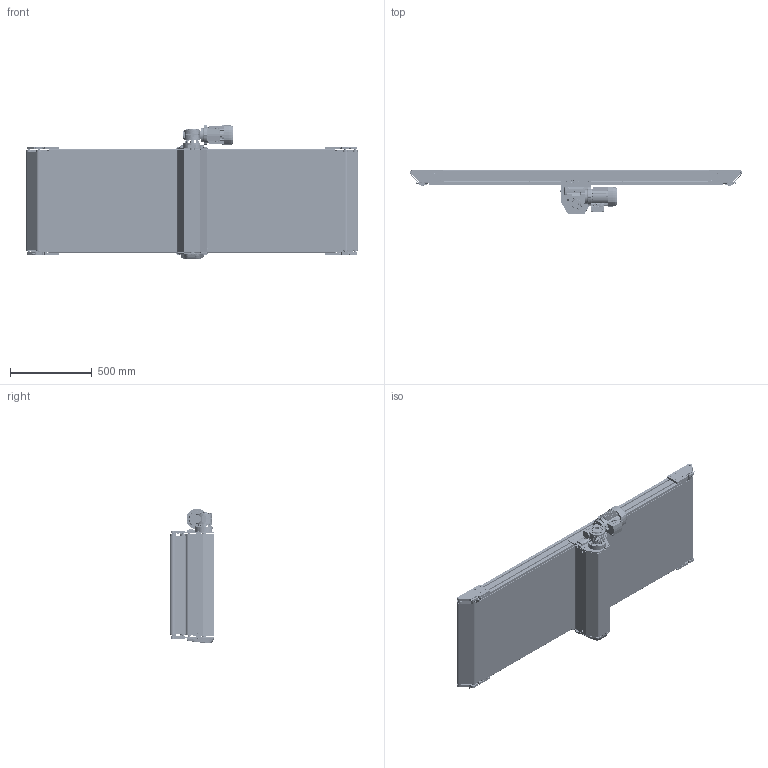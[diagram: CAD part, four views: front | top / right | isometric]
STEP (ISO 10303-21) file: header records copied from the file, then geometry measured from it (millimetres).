
FILE_DESCRIPTION (( 'STEP AP203' ), '1' );
FILE_NAME ('NASTRO_RETTILINEO_TAPPETO.step', '2026-04-22T13:10:27', ( 'Utente Windows' ), ( '' ), 'SwSTEP 2.0', 'SolidWorks 2024', '' );
FILE_SCHEMA (( 'CONFIG_CONTROL_DESIGN' ));
Length unit declared in the file: millimetre
Products named in the file (60): 084.802.064; BLOCCO_RINVIO_95_PENNA_SX; 12UNI7435; RULLO_95_Default<A macchina>; VITI TSEI UNI 5933_M6x12 UNI 5933; CARTER_50-95_CENTRALE; PERNO_SUP_95_PENNA; VITI TE UNI 5739_M8x12 UNI 5739; BLOCCO_RINVIO_95_PENNA_DX; DADI ESAGONALI NORMALI UNI 5588_M6 UNI 5588; RONDELLE FASCIA LARGA UNI 6593_6.4x24 UNI 6593; CHIAVETTE_A 8x7x20 UNI 6604-69; LAMIERA_2_PENNE; 084.301.000 VITI ALUSIC_084.301.003; VITI TSEI UNI 5933_M8x16 UNI 5933; VITE_RONDELLA_M8X20; BLOCCO_TRAINO_50-95_CENTRALE; PERNO_INF_95_PENNA; 084.802.010; 084.302.017; VITI TE UNI 5739_M6x70 UNI 5739; NASTRO_RETTILINEO_TAPPETO; 084.303.001; 084.802.036; RONDELLE UNI 6592_6.4x12.5 UNI 6592; VITI TSEI UNI 5933_M5x12 UNI 5933; VITI TSEI UNI 5933_M8x30 UNI 5933; TRAVERSA_50-95_CENTRALE_Default<A macchina>; 30UNI7435; CH04F_DX; 084.302.016; VITI TE UNI 5739_M6x50 UNI 5739; VITE_DADO_M6X12; CHIAVETTE_A 6x6x60 UNI 6604-69; TELAIO_95_STANDARD_Default<A macchina>; VITE_DADO_M5X12; VITI TE UNI 5739_M6x16 UNI 5739; RULLO_95_PENNA; 084.802.021; 084.802.003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
Assembly tree (154 placements, depth 3):
  NASTRO_RETTILINEO_TAPPETO
    TAPPETO_CENTRALE_2PENNE
    TELAIO_95_STANDARD_Default<A macchina>
    LAMIERA_2_PENNE
    RULLO_95_PENNA  x4
    BLOCCO_RINVIO_95_PENNA_DX  x2
      456.015.101_456.015.101 DX
      084.802.036
      084.301.000 VITI ALUSIC_084.301.003
      VITI TE UNI 5739_M6x70 UNI 5739
      VITI TSEI UNI 5933_M8x30 UNI 5933
      084.302.016
      12UNI7435
    PERNO_SUP_95_PENNA  x2
    BLOCCO_RINVIO_95_PENNA_SX  x2
      456.015.101_456.015.101 SX
      084.802.036
      084.301.000 VITI ALUSIC_084.301.003
      VITI TE UNI 5739_M6x70 UNI 5739
      VITI TSEI UNI 5933_M8x30 UNI 5933
      084.302.016
      12UNI7435
    PERNO_INF_95_PENNA  x2
    RULLO_95_Default<A macchina>
    BLOCCO_TRAINO_50-95_CENTRALE_44
      084.802.010
      084.802.021
      084.802.004-1  x2
      084.802.003
      VITI TSEI UNI 5933_M8x20 UNI 5933  x4
      084.302.017
      VITI TE UNI 5739_M6x50 UNI 5739  x2
      DADI ESAGONALI NORMALI UNI 5588_M6 UNI 5588  x2
      VITI TE UNI 5739_M6x16 UNI 5739  x2
      RONDELLE UNI 6592_6.4x12.5 UNI 6592  x2
      VITI TSEI UNI 5933_M6x12 UNI 5933  x4
      VITI TSEI UNI 5933_M8x16 UNI 5933  x3
      VITI TE UNI 5739_M8x20 UNI 5739  x4
      084.802.070
    BLOCCO_TRAINO_50-95_CENTRALE
      084.802.004-1  x2
      084.802.020
      084.802.003
      VITI TSEI UNI 5933_M8x20 UNI 5933  x4
      VITI TSEI UNI 5933_M6x12 UNI 5933  x6
      RONDELLE UNI 6592_8.4x17 UNI 6592  x2
      VITI TE UNI 5739_M8x12 UNI 5739  x2
      VITI TE UNI 5739_M6x16 UNI 5739  x2
      084.302.017
      RONDELLE UNI 6592_6.4x12.5 UNI 6592  x2
      VITI TE UNI 5739_M6x50 UNI 5739  x2
      DADI ESAGONALI NORMALI UNI 5588_M6 UNI 5588  x2
      084.802.064
    BLOCCO_PERNO_50_CENTRALE_44
      084.814.002-1
      084.810.003
      RONDELLE FASCIA LARGA UNI 6593_6.4x24 UNI 6593
      VITI TE UNI 5739_M6x12 UNI 5739
      CHIAVETTE_A 6x6x60 UNI 6604-69
      CHIAVETTE_A 8x7x20 UNI 6604-69
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Bounding box: 2035.95 x 272.5 x 820.4 mm (x, y, z)
Volume: 22313992.8 mm3; surface area: 16448101.7 mm2
Topology: 217 solids, 232 shells, 7322 faces, 18382 edges, 11696 vertices
Faces by surface type: plane 3272, cylinder 2338, cone 789, bspline 620, torus 288, sphere 15
Entity records: 170479 total; most frequent: CARTESIAN_POINT 57380, ORIENTED_EDGE 22874, DIRECTION 20383, EDGE_CURVE 11437, VERTEX_POINT 7335, AXIS2_PLACEMENT_3D 7250, VECTOR 5883, LINE 5883
